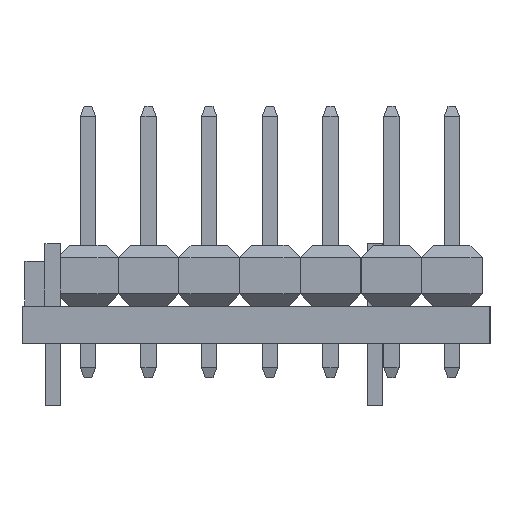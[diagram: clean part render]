
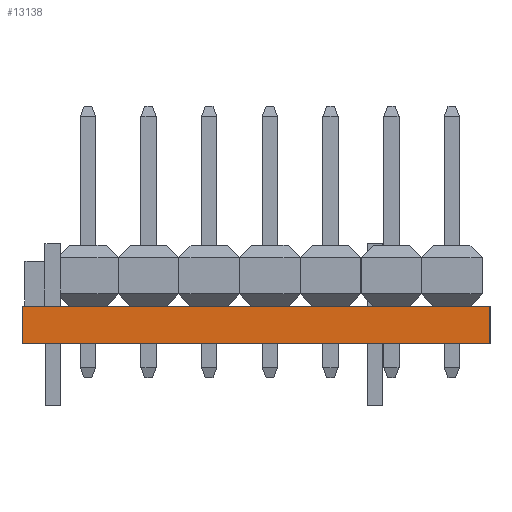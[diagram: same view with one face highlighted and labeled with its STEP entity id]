
A CAD part, left-side view. The second image highlights one B-rep face of the part: STEP entity #13138.
In plain terms, the highlighted planar face has unit normal (-1, 0, 0).
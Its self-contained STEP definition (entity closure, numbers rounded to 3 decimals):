
#307=PLANE('',#14130);
#1063=FACE_OUTER_BOUND('',#1819,.T.);
#1819=EDGE_LOOP('',(#9116,#9117,#9118,#9119));
#2791=LINE('',#18800,#4351);
#2799=LINE('',#18815,#4359);
#2800=LINE('',#18817,#4360);
#2801=LINE('',#18818,#4361);
#4351=VECTOR('',#15427,10.);
#4359=VECTOR('',#15439,10.);
#4360=VECTOR('',#15442,10.);
#4361=VECTOR('',#15443,10.);
#6169=VERTEX_POINT('',#18797);
#6170=VERTEX_POINT('',#18799);
#6174=VERTEX_POINT('',#18811);
#6175=VERTEX_POINT('',#18813);
#7287=EDGE_CURVE('',#6169,#6170,#2791,.T.);
#7295=EDGE_CURVE('',#6174,#6175,#2799,.T.);
#7296=EDGE_CURVE('',#6169,#6174,#2800,.T.);
#7297=EDGE_CURVE('',#6170,#6175,#2801,.T.);
#9116=ORIENTED_EDGE('',*,*,#7296,.T.);
#9117=ORIENTED_EDGE('',*,*,#7295,.T.);
#9118=ORIENTED_EDGE('',*,*,#7297,.F.);
#9119=ORIENTED_EDGE('',*,*,#7287,.F.);
#13138=ADVANCED_FACE('',(#1063),#307,.T.);
#14130=AXIS2_PLACEMENT_3D('',#18816,#15440,#15441);
#15427=DIRECTION('',(0.,0.,1.));
#15439=DIRECTION('',(0.,0.,1.));
#15440=DIRECTION('center_axis',(-1.,0.,0.));
#15441=DIRECTION('ref_axis',(0.,-1.,0.));
#15442=DIRECTION('',(0.,-1.,0.));
#15443=DIRECTION('',(0.,-1.,0.));
#18797=CARTESIAN_POINT('',(0.2,19.8,0.));
#18799=CARTESIAN_POINT('',(0.2,19.8,1.57));
#18800=CARTESIAN_POINT('',(0.2,19.8,0.));
#18811=CARTESIAN_POINT('',(0.2,0.2,0.));
#18813=CARTESIAN_POINT('',(0.2,0.2,1.57));
#18815=CARTESIAN_POINT('',(0.2,0.2,0.));
#18816=CARTESIAN_POINT('Origin',(0.2,19.8,0.));
#18817=CARTESIAN_POINT('',(0.2,19.8,0.));
#18818=CARTESIAN_POINT('',(0.2,19.8,1.57));
